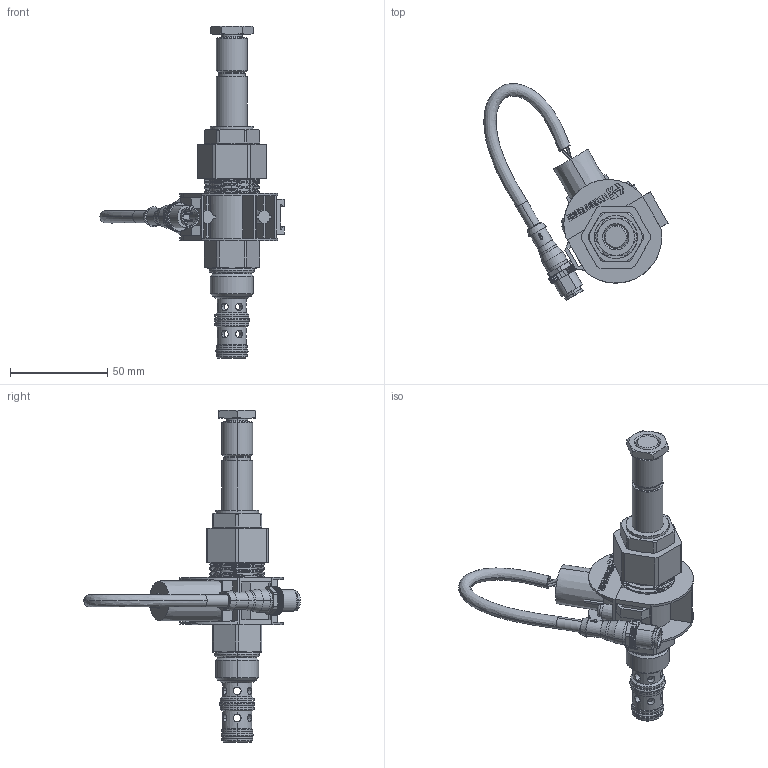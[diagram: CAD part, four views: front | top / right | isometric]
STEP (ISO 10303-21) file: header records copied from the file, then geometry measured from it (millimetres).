
FILE_DESCRIPTION((''),'2;1');
FILE_NAME('SV10-P31-X-X-XXXX-XX-N_SW0002','2021-07-27T08:55:52',('ab7'),(''),'CREO PARAMETRIC BY PTC INC, 2020184','CREO PARAMETRIC BY PTC INC, 2020184','');
FILE_SCHEMA(('CONFIG_CONTROL_DESIGN'));
Products named in the file (1): SV10-P31-X-X-XXXX-XX-N_SW0002
Bounding box: 94.55 x 111.16 x 170.28 mm (x, y, z)
Volume: 91765.4 mm3; surface area: 41459.4 mm2
Topology: 1 solids, 1 shells, 1141 faces, 3151 edges, 2032 vertices
Faces by surface type: plane 514, cylinder 353, cone 96, bspline 78, extrusion 64, revolution 24, torus 12
Entity records: 50901 total; most frequent: CARTESIAN_POINT 23106, ORIENTED_EDGE 6294, DIRECTION 4915, EDGE_CURVE 3147, VERTEX_POINT 2032, VECTOR 1777, LINE 1713, AXIS2_PLACEMENT_3D 1557
